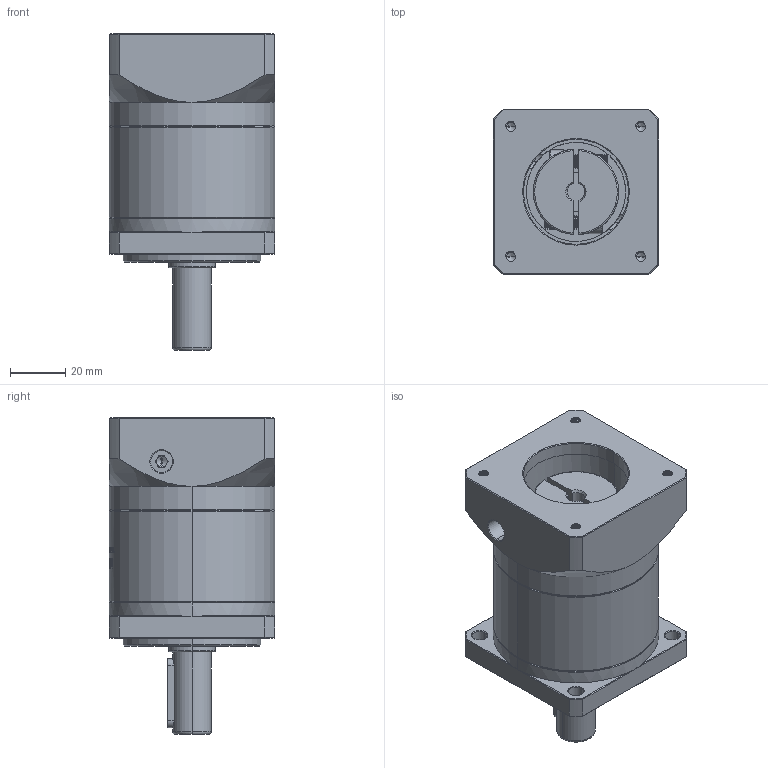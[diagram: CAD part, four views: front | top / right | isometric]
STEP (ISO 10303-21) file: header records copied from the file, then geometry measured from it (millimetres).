
FILE_DESCRIPTION (( 'STEP AP214' ), '1' );
FILE_NAME ('ZF60-D14-L1-6.35-38.1-47.14X47.14-M4.STEP', '2022-04-17T11:22:10', ( '' ), ( 'Microsoft' ), 'SwSTEP 2.0', 'SolidWorks 2016', '' );
FILE_SCHEMA (( 'AUTOMOTIVE_DESIGN' ));
Length unit declared in the file: millimetre
Products named in the file (1): ZF60-D14-L1-6.35-38.1-47.14X47.14-M4
Bounding box: 60 x 60 x 115 mm (x, y, z)
Volume: 226527.3 mm3; surface area: 43720.4 mm2
Topology: 6 solids, 6 shells, 1617 faces, 4371 edges, 2830 vertices
Faces by surface type: plane 744, cylinder 327, bspline 299, cone 227, torus 20
Entity records: 88828 total; most frequent: CARTESIAN_POINT 34062, ORIENTED_EDGE 8714, DIRECTION 6398, EDGE_CURVE 4357, VERTEX_POINT 2830, LINE 2214, VECTOR 2214, AXIS2_PLACEMENT_3D 2092
